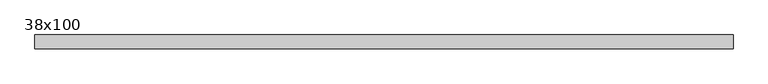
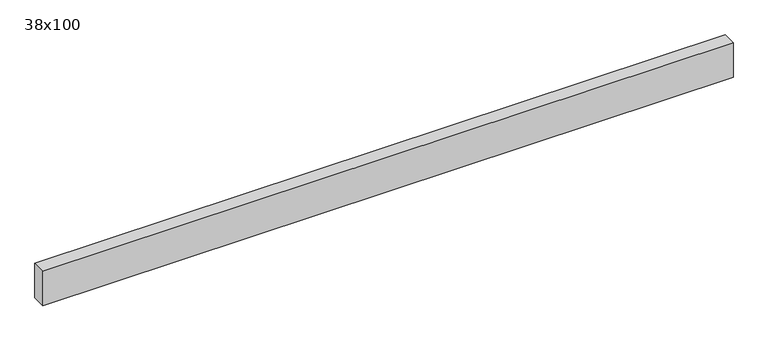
"""IFC4 building model written with IfcOpenShell, lengths in millimetres: beam geometry, Poutre - Bois de construction de dimensions courantes : 38x100."""

import ifcopenshell
import ifcopenshell.guid

model = None  # the IFC model being written
_history = None  # IfcOwnerHistory: only IFC2X3 demands one
_inside = {}  # id of a spatial element -> (the spatial element, [elements in it])
_under = {}  # id of a project, library or spatial element -> (it, [spatial elements below it])
_declared = {}  # id of a project -> (the project, [libraries it declares])
_typed = {}  # id of a type object -> (the type object, [elements of that type])
_made_of = {}  # id of a material, layer set ... -> (it, [elements and type objects made of it])


def new_model(schema):
    """Start an empty IFC model of exactly this schema.

    Asked for "IFC4X3", IfcOpenShell would pick the latest addendum, in which some entities
    have other attributes; the version numbers below select the first issue.
    IFC2X3 requires an IfcOwnerHistory on every rooted entity: one is made here for all.
    """
    global model, _history
    if schema == "IFC4X3":
        model = ifcopenshell.file(schema_version=(4, 3, 0, 0))
    else:
        model = ifcopenshell.file(schema=schema)
    _inside.clear()
    _under.clear()
    _declared.clear()
    _typed.clear()
    _made_of.clear()
    _history = None
    if model.schema == "IFC2X3":
        org = make("IfcOrganization", Name="unknown")
        user = make(
            "IfcPersonAndOrganization",
            ThePerson=make("IfcPerson", FamilyName="unknown"),
            TheOrganization=org,
        )
        app = make(
            "IfcApplication",
            ApplicationDeveloper=org,
            Version="unknown",
            ApplicationFullName="unknown",
            ApplicationIdentifier="unknown",
        )
        _history = make(
            "IfcOwnerHistory",
            OwningUser=user,
            OwningApplication=app,
            ChangeAction="ADDED",
            CreationDate=0,
        )
    return model


def make(cls, **values):
    """One entity of the class cls with the attributes given. An attribute that is None is left unset."""
    return model.create_entity(
        cls, **{name: value for name, value in values.items() if value is not None}
    )


def rooted(cls, **values):
    """An entity with a GlobalId (a new one), such as an element, a storey or a relation."""
    return make(cls, GlobalId=ifcopenshell.guid.new(), OwnerHistory=_history, **values)


def si_unit(unit_type, name, prefix=None):
    """IfcSIUnit, for example si_unit("LENGTHUNIT", "METRE", prefix="MILLI")."""
    return make("IfcSIUnit", UnitType=unit_type, Prefix=prefix, Name=name)


def assignment(units):
    """IfcUnitAssignment: the units of a project."""
    return None if units is None else make("IfcUnitAssignment", Units=units)


def point(xyz):
    """IfcCartesianPoint."""
    return None if xyz is None else make("IfcCartesianPoint", Coordinates=xyz)


def direction(xyz):
    """IfcDirection."""
    return None if xyz is None else make("IfcDirection", DirectionRatios=xyz)


def frame(location, z_axis=None, x_axis=None):
    """IfcAxis2Placement3D, a coordinate frame: its origin and axes. An axis left out is left unset."""
    return make(
        "IfcAxis2Placement3D",
        Location=point(location),
        Axis=direction(z_axis),
        RefDirection=direction(x_axis),
    )


def origin():
    """The frame at (0, 0, 0) with its axes left unset."""
    return frame((0.0, 0.0, 0.0))


def place(relative_to, where):
    """IfcLocalPlacement: puts the frame where relative to a parent placement (None: the world)."""
    return make(
        "IfcLocalPlacement", PlacementRelTo=relative_to, RelativePlacement=where
    )


def context(
    kind, dimensions, precision=None, world=None, true_north=None, identifier=None
):
    """IfcGeometricRepresentationContext, for example the 3D "Model" context."""
    return make(
        "IfcGeometricRepresentationContext",
        ContextIdentifier=identifier,
        ContextType=kind,
        CoordinateSpaceDimension=dimensions,
        Precision=precision,
        WorldCoordinateSystem=world,
        TrueNorth=true_north,
    )


def project(units=None, contexts=None):
    """IfcProject with its units and contexts."""
    return rooted(
        "IfcProject",
        Name="project",
        RepresentationContexts=contexts,
        UnitsInContext=assignment(units),
    )


def spatial(cls, under=None, at=None, **own):
    """A site, building, storey or space (cls), placed at a placement, below another one or the project."""
    s = rooted(cls, ObjectPlacement=at, **own)
    if under is not None:
        _under.setdefault(under.id(), (under, []))[1].append(s)
    return s


def polyline(points):
    """IfcPolyline through the points."""
    return make("IfcPolyline", Points=[point(p) for p in points])


def outline(outer, holes=None, kind="AREA"):
    """IfcArbitraryClosedProfileDef: a profile drawn as a closed curve; with holes, ...WithVoids."""
    if holes is None:
        return make("IfcArbitraryClosedProfileDef", ProfileType=kind, OuterCurve=outer)
    return make(
        "IfcArbitraryProfileDefWithVoids",
        ProfileType=kind,
        OuterCurve=outer,
        InnerCurves=holes,
    )


def extrude(swept, where, along, depth):
    """IfcExtrudedAreaSolid: the profile swept, set in the frame where, extruded along a direction by depth."""
    return make(
        "IfcExtrudedAreaSolid",
        SweptArea=swept,
        Position=where,
        ExtrudedDirection=direction(along),
        Depth=depth,
    )


def shape(context_of_items, identifier, shape_type, items):
    """IfcShapeRepresentation: the items that make up one representation, for example the "Body"."""
    return make(
        "IfcShapeRepresentation",
        ContextOfItems=context_of_items,
        RepresentationIdentifier=identifier,
        RepresentationType=shape_type,
        Items=items,
    )


def source(mapping_origin, context_of_items, identifier, shape_type, items):
    """IfcRepresentationMap: a shape defined once, which mapped items show again and again."""
    return make(
        "IfcRepresentationMap",
        MappingOrigin=mapping_origin,
        MappedRepresentation=shape(context_of_items, identifier, shape_type, items),
    )


def transform(
    local_origin,
    x_axis=None,
    y_axis=None,
    z_axis=None,
    scale=None,
    scale2=None,
    scale3=None,
    uniform=True,
):
    """IfcCartesianTransformationOperator3D, or its non-uniform kind. x_axis, y_axis, z_axis: its Axis1, 2, 3."""
    if uniform:
        return make(
            "IfcCartesianTransformationOperator3D",
            Axis1=direction(x_axis),
            Axis2=direction(y_axis),
            LocalOrigin=point(local_origin),
            Scale=scale,
            Axis3=direction(z_axis),
        )
    return make(
        "IfcCartesianTransformationOperator3DnonUniform",
        Axis1=direction(x_axis),
        Axis2=direction(y_axis),
        LocalOrigin=point(local_origin),
        Scale=scale,
        Axis3=direction(z_axis),
        Scale2=scale2,
        Scale3=scale3,
    )


def mapped(mapping_source, mapping_target):
    """IfcMappedItem: shows the shape of a source again, moved by a transform."""
    return make(
        "IfcMappedItem", MappingSource=mapping_source, MappingTarget=mapping_target
    )


def made_of(thing, what):
    """Note that an element or type object is made of a material, layer set ...; save() writes the relation."""
    if what is not None:
        _made_of.setdefault(what.id(), (what, []))[1].append(thing)
    return thing


def element(
    cls,
    number,
    at=None,
    inside=None,
    cuts=None,
    type_object=None,
    material=None,
    context=None,
    identifier="Body",
    shape_type=None,
    held_by="IfcProductDefinitionShape",
    body=None,
    shapes=None,
    **own,
):
    """One element of the class cls, such as IfcWall. Its Tag is "e" and its number.

    at: its placement. inside: the storey or other place that contains it. cuts: it is an
    opening in that element (IfcRelVoidsElement). A single representation is given by context,
    identifier, shape_type and body (its items); several are given by shapes. held_by: the class
    of the entity that holds the representations. save() writes the other relations.
    """
    e = rooted(cls, Tag="e%d" % number, ObjectPlacement=at, **own)
    if body is not None:
        shapes = [shape(context, identifier, shape_type, body)]
    if shapes is not None:
        e.Representation = make(held_by, Representations=shapes)
    if inside is not None:
        _inside.setdefault(inside.id(), (inside, []))[1].append(e)
    if cuts is not None:
        rooted(
            "IfcRelVoidsElement", RelatingBuildingElement=cuts, RelatedOpeningElement=e
        )
    if type_object is not None:
        _typed.setdefault(type_object.id(), (type_object, []))[1].append(e)
    return made_of(e, material)


def aggregate(whole, parts):
    """IfcRelAggregates: a whole, such as a stair, and the parts it consists of."""
    return rooted("IfcRelAggregates", RelatingObject=whole, RelatedObjects=parts)


def save(model, path):
    """Write the relations noted so far, then the file.

    IfcRelAggregates (storeys below a building ...), IfcRelContainedInSpatialStructure (elements
    in a storey), IfcRelDefinesByType, IfcRelAssociatesMaterial and IfcRelDeclares: one each for
    every whole, place, type object, material and project.
    """
    for whole, parts in _under.values():
        aggregate(whole, parts)
    for where, things in _inside.values():
        rooted(
            "IfcRelContainedInSpatialStructure",
            RelatedElements=things,
            RelatingStructure=where,
        )
    for kind, things in _typed.values():
        rooted("IfcRelDefinesByType", RelatedObjects=things, RelatingType=kind)
    for what, things in _made_of.values():
        rooted("IfcRelAssociatesMaterial", RelatedObjects=things, RelatingMaterial=what)
    for by, libraries in _declared.values():
        rooted("IfcRelDeclares", RelatingContext=by, RelatedDefinitions=libraries)
    model.write(path)


def beam_38x100_49b3385f(model_context):
    return source(origin(), model_context, "Body", "SweptSolid", [
        extrude(outline(polyline([(940.0, 19.05), (940.0, -19.05), (-950.0, -19.05), (-950.0, 19.05), (940.0, 19.05)])), frame((0.0, 0.0, -50.0), z_axis=(0.0, 0.0, 1.0), x_axis=(1.0, 0.0, 0.0)), (0.0, 0.0, 1.0), 100.0),
    ])


if __name__ == "__main__":
    model = new_model("IFC4")
    model_context = context("Model", 3, world=origin())
    ifc_project = project(units=[si_unit("LENGTHUNIT", "METRE", prefix="MILLI")], contexts=[model_context])
    site = spatial("IfcSite", under=ifc_project)
    building = spatial("IfcBuilding", under=site)
    placement = place(None, origin())
    beam_38x100_shape = beam_38x100_49b3385f(model_context)
    element("IfcBeam", 1, ObjectType="Poutre - Bois de construction de dimensions courantes : 38x100", at=placement, inside=building, context=model_context, shape_type="MappedRepresentation", body=[
        mapped(beam_38x100_shape, transform((0.0, 0.0, 0.0), x_axis=(1.0, 0.0, 0.0), y_axis=(0.0, 1.0, 0.0), z_axis=(0.0, 0.0, 1.0))),
    ])
    save(model, "model.ifc")
